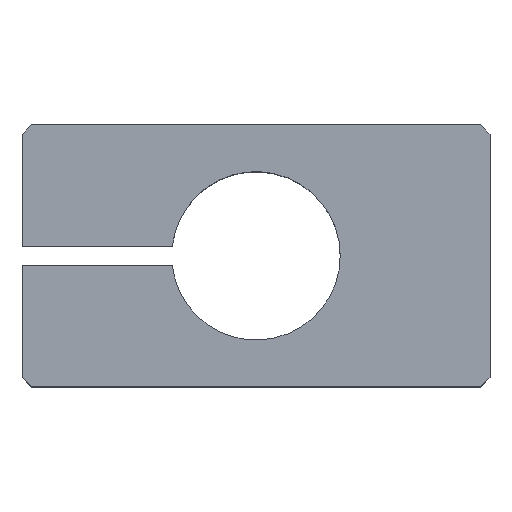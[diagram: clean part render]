
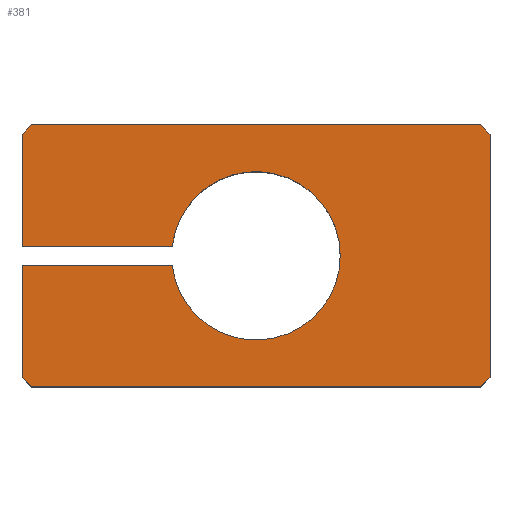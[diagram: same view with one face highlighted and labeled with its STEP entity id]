
A CAD part, top view. The second image highlights one B-rep face of the part: STEP entity #381.
In plain terms, the highlighted planar face has unit normal (0, 0, 1).
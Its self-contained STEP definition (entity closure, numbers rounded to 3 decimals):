
#2 = CARTESIAN_POINT ( 'NONE',  ( 0., 0., 5. ) ) ;
#6 = DIRECTION ( 'NONE',  ( 0.707, 0.707, 0. ) ) ;
#8 = EDGE_CURVE ( 'NONE', #543, #380, #540, .T. ) ;
#11 = VECTOR ( 'NONE', #126, 1000. ) ;
#22 = ORIENTED_EDGE ( 'NONE', *, *, #268, .F. ) ;
#30 = LINE ( 'NONE', #169, #920 ) ;
#34 = AXIS2_PLACEMENT_3D ( 'NONE', #2, #506, #80 ) ;
#72 = CARTESIAN_POINT ( 'NONE',  ( -13.5, 0.5, 5. ) ) ;
#80 = DIRECTION ( 'NONE',  ( 1., 0., 0. ) ) ;
#83 = ORIENTED_EDGE ( 'NONE', *, *, #337, .T. ) ;
#93 = EDGE_CURVE ( 'NONE', #451, #543, #418, .T. ) ;
#96 = FACE_OUTER_BOUND ( 'NONE', #867, .T. ) ;
#104 = VECTOR ( 'NONE', #492, 1000. ) ;
#110 = VERTEX_POINT ( 'NONE', #800 ) ;
#117 = DIRECTION ( 'NONE',  ( -1., 0., 0. ) ) ;
#126 = DIRECTION ( 'NONE',  ( 0., -1., 0. ) ) ;
#132 = CARTESIAN_POINT ( 'NONE',  ( -12., -7., 5. ) ) ;
#134 = ORIENTED_EDGE ( 'NONE', *, *, #8, .T. ) ;
#137 = DIRECTION ( 'NONE',  ( 1., 0., 0. ) ) ;
#147 = DIRECTION ( 'NONE',  ( -1., 0., 0. ) ) ;
#153 = CARTESIAN_POINT ( 'NONE',  ( -4.472, 0.5, 5. ) ) ;
#154 = VERTEX_POINT ( 'NONE', #793 ) ;
#157 = EDGE_CURVE ( 'NONE', #345, #527, #206, .T. ) ;
#161 = ORIENTED_EDGE ( 'NONE', *, *, #240, .T. ) ;
#169 = CARTESIAN_POINT ( 'NONE',  ( -12.5, -7., 5. ) ) ;
#171 = DIRECTION ( 'NONE',  ( 0., 0., 1. ) ) ;
#199 = LINE ( 'NONE', #806, #557 ) ;
#206 = LINE ( 'NONE', #374, #430 ) ;
#222 = EDGE_CURVE ( 'NONE', #154, #907, #30, .T. ) ;
#233 = LINE ( 'NONE', #896, #796 ) ;
#240 = EDGE_CURVE ( 'NONE', #490, #345, #199, .T. ) ;
#260 = CARTESIAN_POINT ( 'NONE',  ( 0., 0., 5. ) ) ;
#268 = EDGE_CURVE ( 'NONE', #398, #681, #745, .T. ) ;
#277 = ORIENTED_EDGE ( 'NONE', *, *, #222, .T. ) ;
#283 = CARTESIAN_POINT ( 'NONE',  ( 12.5, -6.5, 5. ) ) ;
#296 = AXIS2_PLACEMENT_3D ( 'NONE', #596, #171, #598 ) ;
#297 = CARTESIAN_POINT ( 'NONE',  ( 12., -7., 5. ) ) ;
#299 = CARTESIAN_POINT ( 'NONE',  ( -12., 7., 5. ) ) ;
#337 = EDGE_CURVE ( 'NONE', #689, #451, #752, .T. ) ;
#345 = VERTEX_POINT ( 'NONE', #297 ) ;
#356 = VECTOR ( 'NONE', #480, 1000. ) ;
#374 = CARTESIAN_POINT ( 'NONE',  ( 12.5, -6.5, 5. ) ) ;
#380 = VERTEX_POINT ( 'NONE', #823 ) ;
#381 = ADVANCED_FACE ( 'NONE', ( #96 ), #403, .F. ) ;
#383 = LINE ( 'NONE', #72, #544 ) ;
#386 = DIRECTION ( 'NONE',  ( 0., -1., 0. ) ) ;
#387 = ORIENTED_EDGE ( 'NONE', *, *, #730, .T. ) ;
#397 = EDGE_CURVE ( 'NONE', #556, #398, #450, .T. ) ;
#398 = VERTEX_POINT ( 'NONE', #504 ) ;
#403 = PLANE ( 'NONE',  #861 ) ;
#418 = LINE ( 'NONE', #546, #798 ) ;
#422 = CARTESIAN_POINT ( 'NONE',  ( 12., 7., 5. ) ) ;
#430 = VECTOR ( 'NONE', #6, 1000. ) ;
#450 = CIRCLE ( 'NONE', #34, 4.5 ) ;
#451 = VERTEX_POINT ( 'NONE', #422 ) ;
#459 = LINE ( 'NONE', #636, #630 ) ;
#465 = DIRECTION ( 'NONE',  ( -1., 0., 0. ) ) ;
#480 = DIRECTION ( 'NONE',  ( -0.707, -0.707, 0. ) ) ;
#490 = VERTEX_POINT ( 'NONE', #132 ) ;
#492 = DIRECTION ( 'NONE',  ( 0.707, -0.707, 0. ) ) ;
#504 = CARTESIAN_POINT ( 'NONE',  ( 4.5, 0., 5. ) ) ;
#506 = DIRECTION ( 'NONE',  ( 0., 0., 1. ) ) ;
#527 = VERTEX_POINT ( 'NONE', #283 ) ;
#536 = EDGE_CURVE ( 'NONE', #154, #556, #459, .T. ) ;
#540 = LINE ( 'NONE', #593, #356 ) ;
#543 = VERTEX_POINT ( 'NONE', #299 ) ;
#544 = VECTOR ( 'NONE', #147, 1000. ) ;
#546 = CARTESIAN_POINT ( 'NONE',  ( -12.5, 7., 5. ) ) ;
#552 = DIRECTION ( 'NONE',  ( 0., 1., 0. ) ) ;
#555 = CARTESIAN_POINT ( 'NONE',  ( -12.5, -7., 5. ) ) ;
#556 = VERTEX_POINT ( 'NONE', #903 ) ;
#557 = VECTOR ( 'NONE', #821, 1000. ) ;
#558 = ORIENTED_EDGE ( 'NONE', *, *, #93, .T. ) ;
#585 = LINE ( 'NONE', #555, #11 ) ;
#593 = CARTESIAN_POINT ( 'NONE',  ( -12.5, 6.5, 5. ) ) ;
#596 = CARTESIAN_POINT ( 'NONE',  ( 0., 0., 5. ) ) ;
#598 = DIRECTION ( 'NONE',  ( 1., 0., 0. ) ) ;
#630 = VECTOR ( 'NONE', #137, 1000. ) ;
#633 = EDGE_CURVE ( 'NONE', #681, #110, #383, .T. ) ;
#636 = CARTESIAN_POINT ( 'NONE',  ( -13.5, -0.5, 5. ) ) ;
#681 = VERTEX_POINT ( 'NONE', #153 ) ;
#689 = VERTEX_POINT ( 'NONE', #701 ) ;
#701 = CARTESIAN_POINT ( 'NONE',  ( 12.5, 6.5, 5. ) ) ;
#710 = VECTOR ( 'NONE', #857, 1000. ) ;
#717 = ORIENTED_EDGE ( 'NONE', *, *, #397, .F. ) ;
#721 = CARTESIAN_POINT ( 'NONE',  ( 12., 7., 5. ) ) ;
#730 = EDGE_CURVE ( 'NONE', #907, #490, #855, .T. ) ;
#731 = ORIENTED_EDGE ( 'NONE', *, *, #633, .F. ) ;
#745 = CIRCLE ( 'NONE', #296, 4.5 ) ;
#752 = LINE ( 'NONE', #721, #710 ) ;
#770 = ORIENTED_EDGE ( 'NONE', *, *, #157, .T. ) ;
#777 = CARTESIAN_POINT ( 'NONE',  ( -12., -7., 5. ) ) ;
#786 = ORIENTED_EDGE ( 'NONE', *, *, #822, .T. ) ;
#790 = ORIENTED_EDGE ( 'NONE', *, *, #849, .T. ) ;
#793 = CARTESIAN_POINT ( 'NONE',  ( -12.5, -0.5, 5. ) ) ;
#796 = VECTOR ( 'NONE', #552, 1000. ) ;
#798 = VECTOR ( 'NONE', #117, 1000. ) ;
#800 = CARTESIAN_POINT ( 'NONE',  ( -12.5, 0.5, 5. ) ) ;
#806 = CARTESIAN_POINT ( 'NONE',  ( -12.5, -7., 5. ) ) ;
#821 = DIRECTION ( 'NONE',  ( 1., 0., 0. ) ) ;
#822 = EDGE_CURVE ( 'NONE', #527, #689, #233, .T. ) ;
#823 = CARTESIAN_POINT ( 'NONE',  ( -12.5, 6.5, 5. ) ) ;
#843 = ORIENTED_EDGE ( 'NONE', *, *, #536, .F. ) ;
#849 = EDGE_CURVE ( 'NONE', #380, #110, #585, .T. ) ;
#855 = LINE ( 'NONE', #777, #104 ) ;
#857 = DIRECTION ( 'NONE',  ( -0.707, 0.707, 0. ) ) ;
#861 = AXIS2_PLACEMENT_3D ( 'NONE', #260, #890, #465 ) ;
#864 = CARTESIAN_POINT ( 'NONE',  ( -12.5, -6.5, 5. ) ) ;
#867 = EDGE_LOOP ( 'NONE', ( #161, #770, #786, #83, #558, #134, #790, #731, #22, #717, #843, #277, #387 ) ) ;
#890 = DIRECTION ( 'NONE',  ( 0., 0., -1. ) ) ;
#896 = CARTESIAN_POINT ( 'NONE',  ( 12.5, -7., 5. ) ) ;
#903 = CARTESIAN_POINT ( 'NONE',  ( -4.472, -0.5, 5. ) ) ;
#907 = VERTEX_POINT ( 'NONE', #864 ) ;
#920 = VECTOR ( 'NONE', #386, 1000. ) ;
